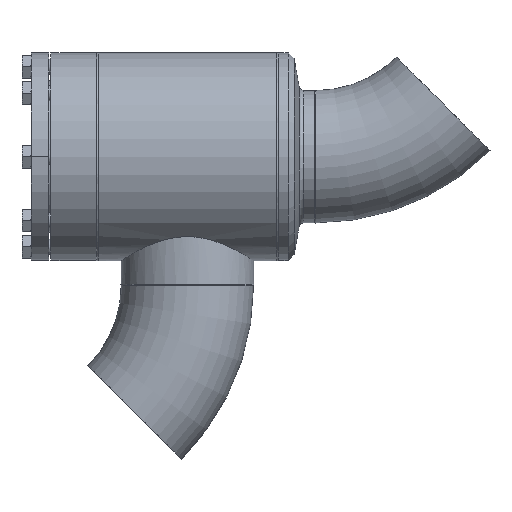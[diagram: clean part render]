
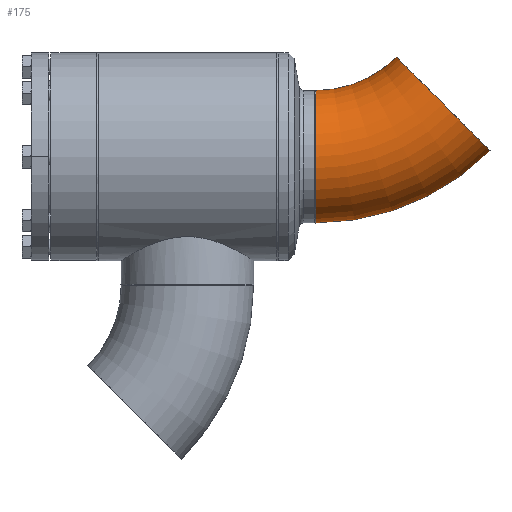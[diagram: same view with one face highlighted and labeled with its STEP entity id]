
A CAD part, left-side view. The second image highlights one B-rep face of the part: STEP entity #175.
In plain terms, the highlighted toroidal (fillet/blend) face has major radius 190 mm and minor radius 69.85 mm.
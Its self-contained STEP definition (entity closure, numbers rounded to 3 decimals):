
#121 = ORIENTED_EDGE ( 'NONE', *, *, #3981, .F. ) ;
#155 = EDGE_LOOP ( 'NONE', ( #121, #982, #673, #631 ) ) ;
#175 = ADVANCED_FACE ( 'NONE', ( #3641 ), #3642, .T. ) ;
#603 = EDGE_CURVE ( 'NONE', #2742, #3775, #5392, .T. ) ;
#631 = ORIENTED_EDGE ( 'NONE', *, *, #603, .T. ) ;
#673 = ORIENTED_EDGE ( 'NONE', *, *, #1912, .T. ) ;
#707 = EDGE_CURVE ( 'NONE', #4805, #5010, #1653, .T. ) ;
#982 = ORIENTED_EDGE ( 'NONE', *, *, #707, .F. ) ;
#1335 = CARTESIAN_POINT ( 'NONE',  ( 84.959, -105.041, 0. ) ) ;
#1546 = CARTESIAN_POINT ( 'NONE',  ( 183.742, -6.258, 0. ) ) ;
#1653 = CIRCLE ( 'NONE', #1654, 69.85 ) ;
#1654 = AXIS2_PLACEMENT_3D ( 'NONE', #1655, #1656, #1657 ) ;
#1655 = CARTESIAN_POINT ( 'NONE',  ( 134.35, -55.65, 0. ) ) ;
#1656 = DIRECTION ( 'NONE',  ( 0.707, -0.707, 0. ) ) ;
#1657 = DIRECTION ( 'NONE',  ( 0., 0., -1. ) ) ;
#1912 = EDGE_CURVE ( 'NONE', #4805, #2742, #3188, .T. ) ;
#2742 = VERTEX_POINT ( 'NONE', #4104 ) ;
#3188 = CIRCLE ( 'NONE', #3189, 120.15 ) ;
#3189 = AXIS2_PLACEMENT_3D ( 'NONE', #3190, #3191, #3192 ) ;
#3190 = CARTESIAN_POINT ( 'NONE',  ( 0., -190., 0. ) ) ;
#3191 = DIRECTION ( 'NONE',  ( 0., 0., 1. ) ) ;
#3192 = DIRECTION ( 'NONE',  ( 1., 0., 0. ) ) ;
#3641 = FACE_OUTER_BOUND ( 'NONE', #155, .T. ) ;
#3642 = TOROIDAL_SURFACE ( 'NONE', #3643, 190., 69.85 ) ;
#3643 = AXIS2_PLACEMENT_3D ( 'NONE', #3644, #3645, #3646 ) ;
#3644 = CARTESIAN_POINT ( 'NONE',  ( 0., -190., 0. ) ) ;
#3645 = DIRECTION ( 'NONE',  ( 0., 0., 1. ) ) ;
#3646 = DIRECTION ( 'NONE',  ( 1., 0., 0. ) ) ;
#3775 = VERTEX_POINT ( 'NONE', #5381 ) ;
#3981 = EDGE_CURVE ( 'NONE', #5010, #3775, #5715, .T. ) ;
#4104 = CARTESIAN_POINT ( 'NONE',  ( 0., -69.85, 0. ) ) ;
#4805 = VERTEX_POINT ( 'NONE', #1335 ) ;
#5010 = VERTEX_POINT ( 'NONE', #1546 ) ;
#5381 = CARTESIAN_POINT ( 'NONE',  ( 0., 69.85, 0. ) ) ;
#5392 = CIRCLE ( 'NONE', #5393, 69.85 ) ;
#5393 = AXIS2_PLACEMENT_3D ( 'NONE', #5394, #5395, #5396 ) ;
#5394 = CARTESIAN_POINT ( 'NONE',  ( 0., 0., 0. ) ) ;
#5395 = DIRECTION ( 'NONE',  ( 1., 0., 0. ) ) ;
#5396 = DIRECTION ( 'NONE',  ( 0., 0., -1. ) ) ;
#5715 = CIRCLE ( 'NONE', #5716, 259.85 ) ;
#5716 = AXIS2_PLACEMENT_3D ( 'NONE', #5717, #5718, #5719 ) ;
#5717 = CARTESIAN_POINT ( 'NONE',  ( 0., -190., 0. ) ) ;
#5718 = DIRECTION ( 'NONE',  ( 0., 0., 1. ) ) ;
#5719 = DIRECTION ( 'NONE',  ( 1., 0., 0. ) ) ;
